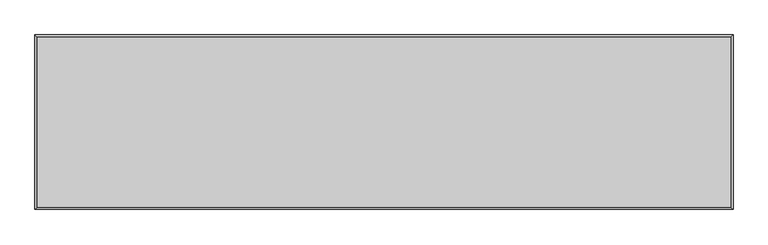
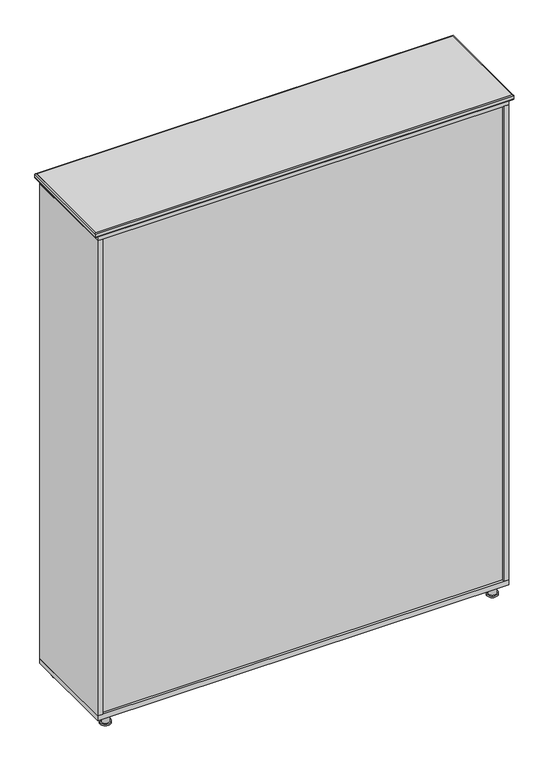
"""IFC4 building model written with IfcOpenShell, lengths in millimetres: furniture geometry, 书柜7 : W800*D419*H1515mm 2."""

from ifc_helpers import new_model, si_unit, point, frame, frame_2d, origin, origin_with_axes, place, context, project, spatial, polyline, circle_curve, ellipse_curve, trimmed, segment, composite_curve, outline, extrude, source, transform, mapped, element, save
from ifc_brep_helpers import plane_surface, cylinder_surface, advanced_brep


def furniture_541a6319(model_context):
    return source(origin(), model_context, "Body", "SolidModel", [
        extrude(outline(polyline([(575.0, -159.2785466), (-575.0, -159.2785466), (-575.0, 115.0), (575.0, 115.0), (575.0, -159.2785466)])), frame((0.0, 0.0, 397.0), z_axis=(0.0, 0.0, 1.0), x_axis=(1.0, 0.0, 0.0)), (0.0, 0.0, 1.0), 16.0),
        extrude(outline(polyline([(575.0, -159.2785466), (-575.0, -159.2785466), (-575.0, 115.0), (575.0, 115.0), (575.0, -159.2785466)])), frame((0.0, 0.0, 1117.0), z_axis=(0.0, 0.0, 1.0), x_axis=(1.0, 0.0, 0.0)), (0.0, 0.0, 1.0), 16.0),
        extrude(outline(polyline([(575.0, -165.0), (-575.0, -165.0), (-575.0, -159.2785466), (575.0, -159.2785466), (575.0, -165.0)])), frame((0.0, 0.0, 45.0), z_axis=(0.0, 0.0, 1.0), x_axis=(1.0, 0.0, 0.0)), (0.0, 0.0, 1.0), 1440.0),
        extrude(outline(composite_curve([segment(trimmed(circle_curve(frame_2d((555.0, -149.3474913)), 11.561262), [point((566.561262, -149.3474913))], [point((543.438738, -149.3474913))], False, "CARTESIAN"), True, "CONTINUOUS"), segment(trimmed(circle_curve(frame_2d((555.0, -149.3474913)), 11.561262), [point((543.438738, -149.3474913))], [point((566.561262, -149.3474913))], False, "CARTESIAN"), True, "CONTINUOUS")], self_intersect=False)), frame((0.0, 0.0, 4.4532093), z_axis=(0.0, 0.0, 1.0), x_axis=(1.0, 0.0, 0.0)), (0.0, 0.0, 1.0), 25.5467907),
        extrude(outline(composite_curve([segment(trimmed(circle_curve(frame_2d((555.0, -149.3474913)), 15.4868656), [point((570.4868656, -149.3474913))], [point((539.5131344, -149.3474913))], False, "CARTESIAN"), True, "CONTINUOUS"), segment(trimmed(circle_curve(frame_2d((555.0, -149.3474913)), 15.4868656), [point((539.5131344, -149.3474913))], [point((570.4868656, -149.3474913))], False, "CARTESIAN"), True, "CONTINUOUS")], self_intersect=False)), origin_with_axes(), (0.0, 0.0, 1.0), 4.4532093),
        extrude(outline(composite_curve([segment(trimmed(circle_curve(frame_2d((-555.0, -149.3474913)), 11.561262), [point((-566.561262, -149.3474913))], [point((-543.438738, -149.3474913))], False, "CARTESIAN"), True, "CONTINUOUS"), segment(trimmed(circle_curve(frame_2d((-555.0, -149.3474913)), 11.561262), [point((-543.438738, -149.3474913))], [point((-566.561262, -149.3474913))], False, "CARTESIAN"), True, "CONTINUOUS")], self_intersect=False)), frame((0.0, 0.0, 4.4532093), z_axis=(0.0, 0.0, 1.0), x_axis=(1.0, 0.0, 0.0)), (0.0, 0.0, 1.0), 25.5467907),
        extrude(outline(composite_curve([segment(trimmed(circle_curve(frame_2d((-555.0, -149.3474913)), 15.4868656), [point((-570.4868656, -149.3474913))], [point((-539.5131344, -149.3474913))], False, "CARTESIAN"), True, "CONTINUOUS"), segment(trimmed(circle_curve(frame_2d((-555.0, -149.3474913)), 15.4868656), [point((-539.5131344, -149.3474913))], [point((-570.4868656, -149.3474913))], False, "CARTESIAN"), True, "CONTINUOUS")], self_intersect=False)), origin_with_axes(), (0.0, 0.0, 1.0), 4.4532093),
        extrude(outline(composite_curve([segment(trimmed(circle_curve(frame_2d((555.0, 88.0)), 11.561262), [point((566.561262, 88.0))], [point((543.438738, 88.0))], False, "CARTESIAN"), True, "CONTINUOUS"), segment(trimmed(circle_curve(frame_2d((555.0, 88.0)), 11.561262), [point((543.438738, 88.0))], [point((566.561262, 88.0))], False, "CARTESIAN"), True, "CONTINUOUS")], self_intersect=False)), frame((0.0, 0.0, 4.4532093), z_axis=(0.0, 0.0, 1.0), x_axis=(1.0, 0.0, 0.0)), (0.0, 0.0, 1.0), 25.5467907),
        extrude(outline(composite_curve([segment(trimmed(circle_curve(frame_2d((555.0, 88.0)), 15.4868656), [point((570.4868656, 88.0))], [point((539.5131344, 88.0))], False, "CARTESIAN"), True, "CONTINUOUS"), segment(trimmed(circle_curve(frame_2d((555.0, 88.0)), 15.4868656), [point((539.5131344, 88.0))], [point((570.4868656, 88.0))], False, "CARTESIAN"), True, "CONTINUOUS")], self_intersect=False)), origin_with_axes(), (0.0, 0.0, 1.0), 4.4532093),
        extrude(outline(composite_curve([segment(trimmed(circle_curve(frame_2d((-555.0, 88.0)), 11.561262), [point((-566.561262, 88.0))], [point((-543.438738, 88.0))], False, "CARTESIAN"), True, "CONTINUOUS"), segment(trimmed(circle_curve(frame_2d((-555.0, 88.0)), 11.561262), [point((-543.438738, 88.0))], [point((-566.561262, 88.0))], False, "CARTESIAN"), True, "CONTINUOUS")], self_intersect=False)), frame((0.0, 0.0, 4.4532093), z_axis=(0.0, 0.0, 1.0), x_axis=(1.0, 0.0, 0.0)), (0.0, 0.0, 1.0), 25.5467907),
        extrude(outline(composite_curve([segment(trimmed(circle_curve(frame_2d((-555.0, 88.0)), 15.4868656), [point((-570.4868656, 88.0))], [point((-539.5131344, 88.0))], False, "CARTESIAN"), True, "CONTINUOUS"), segment(trimmed(circle_curve(frame_2d((-555.0, 88.0)), 15.4868656), [point((-539.5131344, 88.0))], [point((-570.4868656, 88.0))], False, "CARTESIAN"), True, "CONTINUOUS")], self_intersect=False)), origin_with_axes(), (0.0, 0.0, 1.0), 4.4532093),
        advanced_brep(
        [(600.0, -178.0, 1512.0), (600.0, 122.0, 1512.0), (597.0, 119.0, 1515.0), (597.0, -175.0, 1515.0), (600.0, -178.0, 1503.0), (600.0, 122.0, 1503.0), (597.0, -175.0, 1500.0), (597.0, 119.0, 1500.0), (-600.0, 122.0, 1512.0), (-597.0, 119.0, 1515.0), (-600.0, 122.0, 1503.0), (-597.0, 119.0, 1500.0), (-600.0, -178.0, 1512.0), (-597.0, -175.0, 1515.0), (-600.0, -178.0, 1503.0), (-597.0, -175.0, 1500.0)],
        [
            (0, 1),
            (1, 2, ellipse_curve(frame((597.0, 119.0, 1512.0), z_axis=(0.7071067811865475, -0.7071067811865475, 0.0), x_axis=(-0.7071067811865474, -0.7071067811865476, 0.0)), 4.2426407, 3.0)),
            (2, 3),
            (3, 0, ellipse_curve(frame((597.0, -175.0, 1512.0), z_axis=(0.7071067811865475, 0.7071067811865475, 0.0), x_axis=(0.7071067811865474, -0.7071067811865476, 0.0)), 4.2426407, 3.0)),
            (4, 5),
            (5, 1),
            (0, 4),
            (6, 7),
            (7, 5, ellipse_curve(frame((597.0, 119.0, 1503.0), z_axis=(0.7071067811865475, -0.7071067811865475, 0.0), x_axis=(-0.7071067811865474, -0.7071067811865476, 0.0)), 4.2426407, 3.0)),
            (4, 6, ellipse_curve(frame((597.0, -175.0, 1503.0), z_axis=(0.7071067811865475, 0.7071067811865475, 0.0), x_axis=(0.7071067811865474, -0.7071067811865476, 0.0)), 4.2426407, 3.0)),
            (2, 7),
            (6, 3),
            (1, 8),
            (8, 9, ellipse_curve(frame((-597.0, 119.0, 1512.0), z_axis=(0.7071067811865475, 0.7071067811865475, 0.0), x_axis=(0.7071067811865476, -0.7071067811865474, 0.0)), 4.2426407, 3.0)),
            (9, 2),
            (5, 10),
            (10, 8),
            (7, 11),
            (11, 10, ellipse_curve(frame((-597.0, 119.0, 1503.0), z_axis=(0.7071067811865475, 0.7071067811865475, 0.0), x_axis=(0.7071067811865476, -0.7071067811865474, 0.0)), 4.2426407, 3.0)),
            (9, 11),
            (8, 12),
            (12, 13, ellipse_curve(frame((-597.0, -175.0, 1512.0), z_axis=(-0.7071067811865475, 0.7071067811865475, 0.0), x_axis=(0.7071067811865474, 0.7071067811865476, 0.0)), 4.2426407, 3.0)),
            (13, 9),
            (10, 14),
            (14, 12),
            (11, 15),
            (15, 14, ellipse_curve(frame((-597.0, -175.0, 1503.0), z_axis=(-0.7071067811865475, 0.7071067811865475, 0.0), x_axis=(0.7071067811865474, 0.7071067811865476, 0.0)), 4.2426407, 3.0)),
            (13, 15),
            (12, 0),
            (3, 13),
            (14, 4),
            (15, 6),
        ],
        [
            cylinder_surface(frame((597.0, -178.0, 1512.0), z_axis=(0.0, -1.0, 0.0), x_axis=(1.0, 0.0, 0.0)), 3.0),
            plane_surface(frame((600.0, -178.0, 1512.0), z_axis=(1.0, 0.0, 0.0), x_axis=(0.0, 1.0, 0.0))),
            cylinder_surface(frame((597.0, -178.0, 1503.0), z_axis=(0.0, -1.0, 0.0), x_axis=(1.0, 0.0, 0.0)), 3.0),
            plane_surface(frame((597.0, -175.0, 1500.0), z_axis=(-1.0, 0.0, 0.0), x_axis=(0.0, 1.0, 0.0))),
            cylinder_surface(frame((600.0, 119.0, 1512.0), z_axis=(1.0, 0.0, 0.0), x_axis=(0.0, 1.0, 0.0)), 3.0),
            plane_surface(frame((600.0, 122.0, 1512.0), z_axis=(0.0, 1.0, 0.0), x_axis=(-1.0, 0.0, 0.0))),
            cylinder_surface(frame((600.0, 119.0, 1503.0), z_axis=(1.0, 0.0, 0.0), x_axis=(0.0, 1.0, 0.0)), 3.0),
            plane_surface(frame((597.0, 119.0, 1500.0), z_axis=(0.0, -1.0, 0.0), x_axis=(-1.0, 0.0, 0.0))),
            cylinder_surface(frame((-597.0, 122.0, 1512.0), z_axis=(0.0, 1.0, 0.0), x_axis=(-1.0, 0.0, 0.0)), 3.0),
            plane_surface(frame((-600.0, 122.0, 1512.0), z_axis=(-1.0, 0.0, 0.0), x_axis=(0.0, -1.0, 0.0))),
            cylinder_surface(frame((-597.0, 122.0, 1503.0), z_axis=(0.0, 1.0, 0.0), x_axis=(-1.0, 0.0, 0.0)), 3.0),
            plane_surface(frame((-597.0, 119.0, 1500.0), z_axis=(1.0, 0.0, 0.0), x_axis=(0.0, -1.0, 0.0))),
            cylinder_surface(frame((-600.0, -175.0, 1512.0), z_axis=(-1.0, 0.0, 0.0), x_axis=(0.0, -1.0, 0.0)), 3.0),
            plane_surface(frame((-600.0, -178.0, 1512.0), z_axis=(0.0, -1.0, 0.0), x_axis=(1.0, 0.0, 0.0))),
            cylinder_surface(frame((-600.0, -175.0, 1503.0), z_axis=(-1.0, 0.0, 0.0), x_axis=(0.0, -1.0, 0.0)), 3.0),
            plane_surface(frame((-597.0, -175.0, 1500.0), z_axis=(0.0, 1.0, 0.0), x_axis=(1.0, 0.0, 0.0))),
        ],
        [
            (0, [[1, 2, 3, 4]]),
            (1, [[5, 6, -1, 7]]),
            (2, [[8, 9, -5, 10]]),
            (3, [[-3, 11, -8, 12]]),
            (4, [[13, 14, 15, -2]]),
            (5, [[16, 17, -13, -6]]),
            (6, [[18, 19, -16, -9]]),
            (7, [[-15, 20, -18, -11]]),
            (8, [[21, 22, 23, -14]]),
            (9, [[24, 25, -21, -17]]),
            (10, [[26, 27, -24, -19]]),
            (11, [[-23, 28, -26, -20]]),
            (12, [[29, -4, 30, -22]]),
            (13, [[31, -7, -29, -25]]),
            (14, [[32, -10, -31, -27]]),
            (15, [[-30, -12, -32, -28]]),
        ],
    ),
        extrude(outline(polyline([(597.0, -175.0), (-597.0, -175.0), (-597.0, 119.0), (597.0, 119.0), (597.0, -175.0)])), frame((0.0, 0.0, 1500.0), z_axis=(0.0, 0.0, 1.0), x_axis=(1.0, 0.0, 0.0)), (0.0, 0.0, 1.0), 15.0),
        extrude(outline(polyline([(575.0, 115.0), (590.0, 115.0), (590.0, -172.0), (575.0, -172.0), (575.0, 115.0)])), frame((0.0, 0.0, 45.0), z_axis=(0.0, 0.0, 1.0), x_axis=(1.0, 0.0, 0.0)), (0.0, 0.0, 1.0), 1440.0),
        extrude(outline(polyline([(-575.0, -172.0), (-590.0, -172.0), (-590.0, 115.0), (-575.0, 115.0), (-575.0, -172.0)])), frame((0.0, 0.0, 45.0), z_axis=(0.0, 0.0, 1.0), x_axis=(1.0, 0.0, 0.0)), (0.0, 0.0, 1.0), 1440.0),
        extrude(outline(polyline([(575.0, -159.2785466), (-575.0, -159.2785466), (-575.0, 115.0), (575.0, 115.0), (575.0, -159.2785466)])), frame((0.0, 0.0, 757.5), z_axis=(0.0, 0.0, 1.0), x_axis=(1.0, 0.0, 0.0)), (0.0, 0.0, 1.0), 15.0),
        extrude(outline(polyline([(590.0, 115.0), (590.0, -172.0), (-590.0, -172.0), (-590.0, 115.0), (590.0, 115.0)])), frame((0.0, 0.0, 1485.0), z_axis=(0.0, 0.0, 1.0), x_axis=(1.0, 0.0, 0.0)), (0.0, 0.0, 1.0), 15.0),
        extrude(outline(polyline([(590.0, 115.0), (590.0, -172.0), (-590.0, -172.0), (-590.0, 115.0), (590.0, 115.0)])), frame((0.0, 0.0, 30.0), z_axis=(0.0, 0.0, 1.0), x_axis=(1.0, 0.0, 0.0)), (0.0, 0.0, 1.0), 15.0),
    ])


if __name__ == "__main__":
    model = new_model("IFC4")
    model_context = context("Model", 3, world=origin())
    ifc_project = project(units=[si_unit("LENGTHUNIT", "METRE", prefix="MILLI")], contexts=[model_context])
    site = spatial("IfcSite", under=ifc_project)
    building = spatial("IfcBuilding", under=site)
    placement = place(None, origin())
    furniture_shape = furniture_541a6319(model_context)
    element("IfcFurniture", 1, ObjectType="书柜7 : W800*D419*H1515mm 2", at=placement, inside=building, context=model_context, shape_type="MappedRepresentation", body=[
        mapped(furniture_shape, transform((0.0, 0.0, 0.0), x_axis=(1.0, 0.0, 0.0), y_axis=(0.0, 1.0, 0.0), z_axis=(0.0, 0.0, 1.0))),
    ])
    save(model, "model.ifc")
